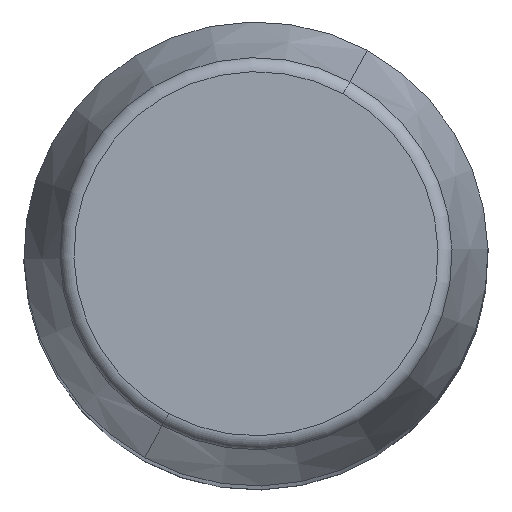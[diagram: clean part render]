
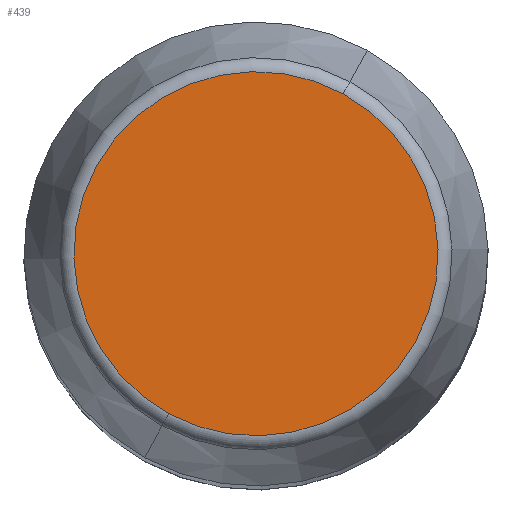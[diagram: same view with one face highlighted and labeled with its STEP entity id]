
A CAD part, top view. The second image highlights one B-rep face of the part: STEP entity #439.
In plain terms, the highlighted planar face has unit normal (0, 0, 1).
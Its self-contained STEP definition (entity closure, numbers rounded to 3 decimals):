
#391=CARTESIAN_POINT('Vertex',(-6.018,-11.016,180.)) ;
#394=CARTESIAN_POINT('Axis2P3D Location',(0.,0.,180.)) ;
#398=CARTESIAN_POINT('Vertex',(6.018,11.016,180.)) ;
#418=CARTESIAN_POINT('Axis2P3D Location',(0.,0.,180.)) ;
#430=CARTESIAN_POINT('Axis2P3D Location',(0.,12.553,180.)) ;
#395=DIRECTION('Axis2P3D Direction',(0.,0.,-1.)) ;
#419=DIRECTION('Axis2P3D Direction',(0.,0.,-1.)) ;
#431=DIRECTION('Axis2P3D Direction',(0.,0.,-1.)) ;
#432=DIRECTION('Axis2P3D XDirection',(1.,0.,0.)) ;
#396=AXIS2_PLACEMENT_3D('Circle Axis2P3D',#394,#395,$) ;
#420=AXIS2_PLACEMENT_3D('Circle Axis2P3D',#418,#419,$) ;
#433=AXIS2_PLACEMENT_3D('Plane Axis2P3D',#430,#431,#432) ;
#436=ORIENTED_EDGE('',*,*,#422,.F.) ;
#437=ORIENTED_EDGE('',*,*,#400,.F.) ;
#439=ADVANCED_FACE('PartBody',(#438),#434,.F.) ;
#397=CIRCLE('generated circle',#396,12.553) ;
#421=CIRCLE('generated circle',#420,12.553) ;
#400=EDGE_CURVE('',#392,#399,#397,.T.) ;
#422=EDGE_CURVE('',#399,#392,#421,.T.) ;
#435=EDGE_LOOP('',(#436,#437)) ;
#438=FACE_OUTER_BOUND('',#435,.T.) ;
#434=PLANE('Plane',#433) ;
#392=VERTEX_POINT('',#391) ;
#399=VERTEX_POINT('',#398) ;
